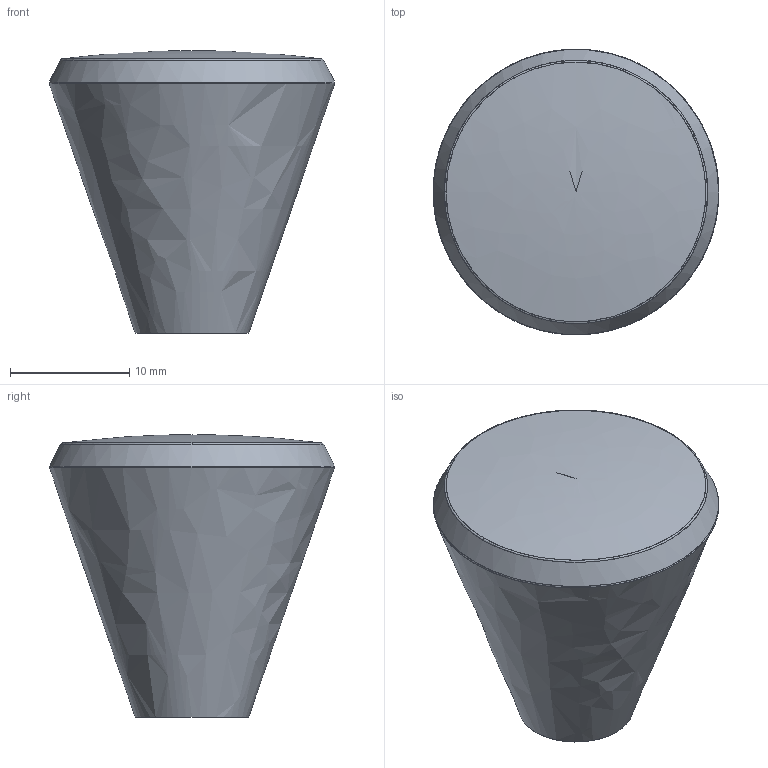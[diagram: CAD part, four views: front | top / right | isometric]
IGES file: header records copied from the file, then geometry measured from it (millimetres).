
Start section: C
Global section: file name: 8026.igs; native system: By Siemens PLM Incorporated; preprocessor: XPlus GENERIC/IGES 16.0.42; author: Author; organization: Title; date: 20231128.135403; units: millimetre
Bounding box: 23.97 x 23.97 x 23.7 mm (x, y, z)
Surface area: 2127.4 mm2 (no closed solid volume)
Topology: 0 solids, 0 shells, 8 faces, 43 edges, 42 vertices
Faces by surface type: bspline 8
